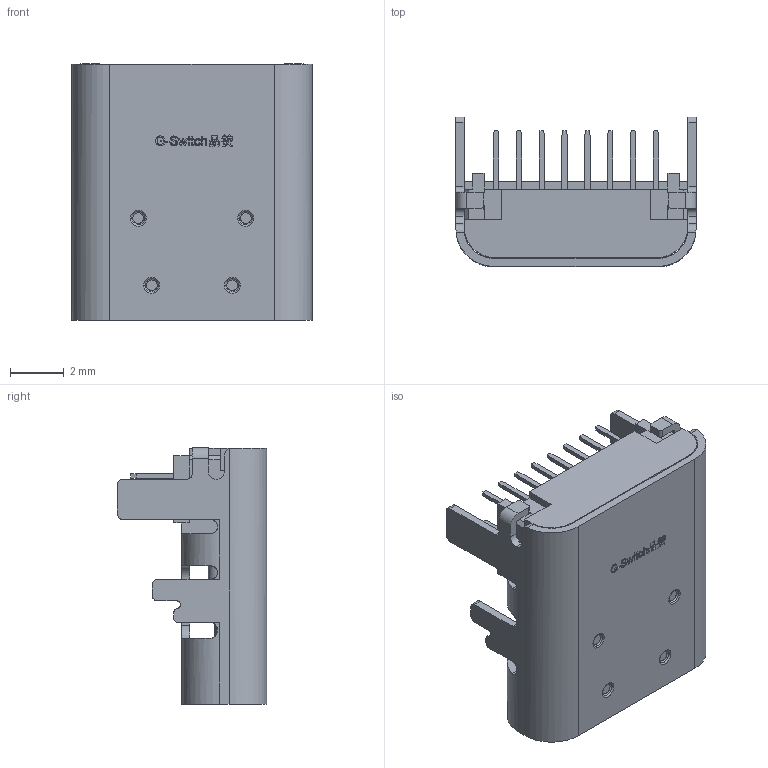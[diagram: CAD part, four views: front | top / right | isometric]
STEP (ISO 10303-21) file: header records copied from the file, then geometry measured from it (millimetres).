
FILE_DESCRIPTION (( 'STEP AP203' ), '1' );
FILE_NAME ('GT-USB-7107A.STEP', '2024-04-07T12:33:55', ( '' ), ( '' ), 'SwSTEP 2.0', 'SolidWorks 2023', '' );
FILE_SCHEMA (( 'CONFIG_CONTROL_DESIGN' ));
Length unit declared in the file: millimetre
Products named in the file (4): HOUSING_DOWN_1_WITH_SPRING-0.stp; TYPE-C 16PIN板上型母座 双排DIP 长L=9.54MM 脚长1.6MM.stp; HOUSING_DOWN_1_WITH_SPRING.stp; GT-USB-7107A
Assembly tree (3 placements, depth 4):
  GT-USB-7107A
    TYPE-C 16PIN板上型母座 双排DIP 长L=9.54MM 脚长1.6MM.stp
      HOUSING_DOWN_1_WITH_SPRING.stp
        HOUSING_DOWN_1_WITH_SPRING-0.stp
Bounding box: 8.94 x 5.56 x 9.55 mm (x, y, z)
Volume: 153.8 mm3; surface area: 670.1 mm2
Topology: 1 solids, 14 shells, 1225 faces, 3349 edges, 2193 vertices
Faces by surface type: plane 949, cylinder 142, bspline 74, torus 48, cone 12
Entity records: 42790 total; most frequent: CARTESIAN_POINT 11458, ORIENTED_EDGE 6698, DIRECTION 5916, EDGE_CURVE 3349, LINE 2734, VECTOR 2734, VERTEX_POINT 2193, AXIS2_PLACEMENT_3D 1591
